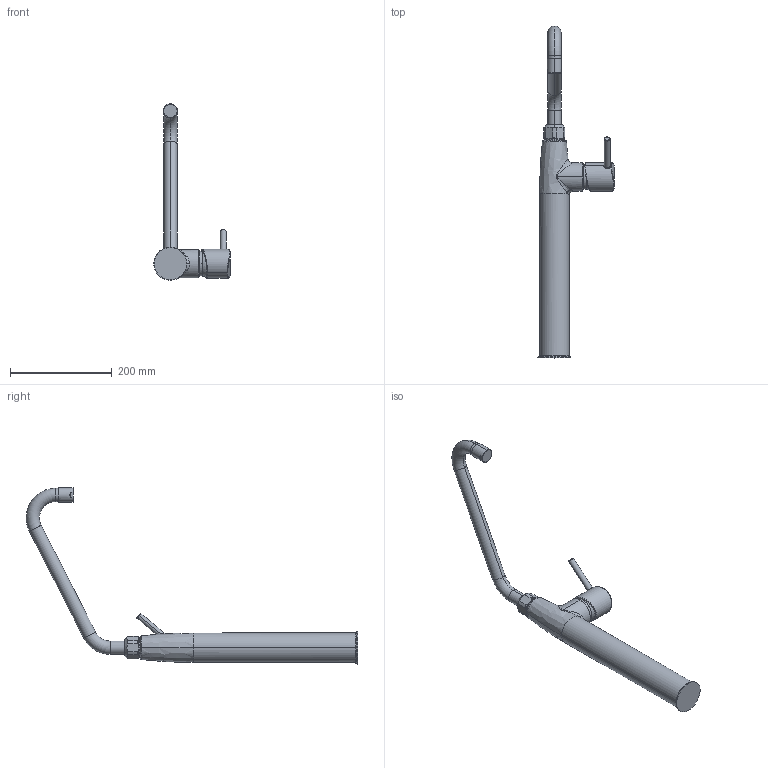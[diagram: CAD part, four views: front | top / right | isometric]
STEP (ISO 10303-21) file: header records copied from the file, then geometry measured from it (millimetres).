
FILE_DESCRIPTION((''),'2;1');
FILE_NAME('24_501_064_XXX','2012-01-03T',('HEF'),(''),'PRO/ENGINEER BY PARAMETRIC TECHNOLOGY CORPORATION, 2011080','PRO/ENGINEER BY PARAMETRIC TECHNOLOGY CORPORATION, 2011080','');
FILE_SCHEMA(('AUTOMOTIVE_DESIGN_CC2 { 1 2 10303 214 -1 1 5 2 }'));
Length unit declared in the file: millimetre
Products named in the file (1): 24_501_064_XXX
Bounding box: 149.83 x 651.46 x 346.51 mm (x, y, z)
Volume: 1599053.4 mm3; surface area: 141726.6 mm2
Topology: 1 solids, 1 shells, 98 faces, 225 edges, 135 vertices
Faces by surface type: cylinder 29, torus 25, plane 19, bspline 14, cone 10, sphere 1
Entity records: 5817 total; most frequent: CARTESIAN_POINT 2645, DIRECTION 451, ORIENTED_EDGE 450, EDGE_CURVE 225, AXIS2_PLACEMENT_3D 201, FILL_AREA_STYLE_COLOUR 157, FILL_AREA_STYLE 157, SURFACE_STYLE_FILL_AREA 157
